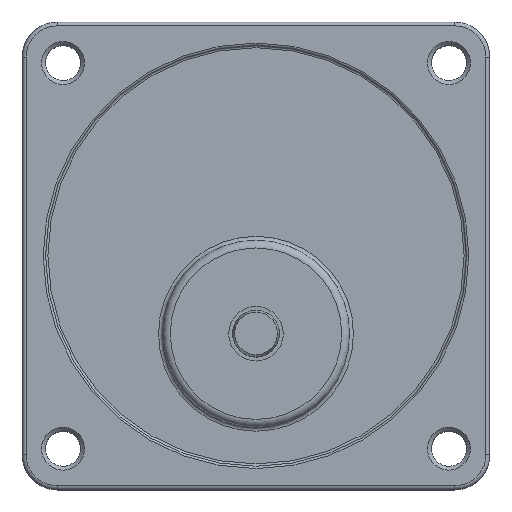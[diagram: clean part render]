
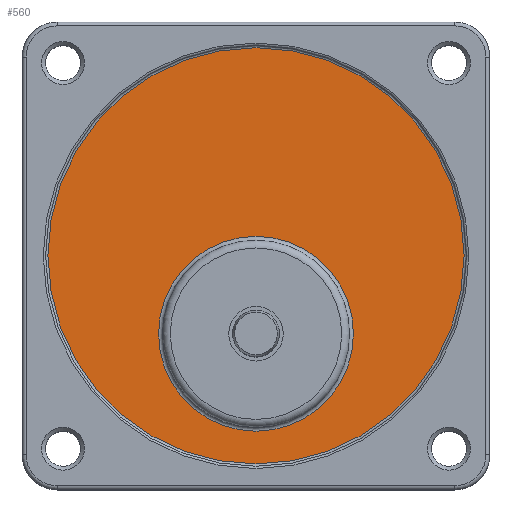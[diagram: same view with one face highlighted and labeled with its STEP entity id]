
A CAD part, top view. The second image highlights one B-rep face of the part: STEP entity #560.
In plain terms, the highlighted planar face has unit normal (0, 0, 1).
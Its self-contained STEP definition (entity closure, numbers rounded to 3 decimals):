
#509=CARTESIAN_POINT('',(42.5,20.0,25.2));
#510=VERTEX_POINT('',#509);
#511=CARTESIAN_POINT('',(30.,20.0,25.2));
#512=DIRECTION('',(0.0,0.0,1.0));
#513=DIRECTION('',(-1.0,0.0,0.0));
#514=AXIS2_PLACEMENT_3D('',#511,#512,#513);
#515=CIRCLE('',#514,12.5);
#516=EDGE_CURVE('',#510,#510,#515,.T.);
#541=CARTESIAN_POINT('',(30.,30.0,25.2));
#542=DIRECTION('',(0.0,0.0,-1.0));
#543=DIRECTION('',(-1.0,0.0,0.0));
#544=AXIS2_PLACEMENT_3D('',#541,#542,#543);
#545=PLANE('',#544);
#546=CARTESIAN_POINT('',(56.699,30.,25.2));
#547=VERTEX_POINT('',#546);
#548=CARTESIAN_POINT('',(30.,30.0,25.2));
#549=DIRECTION('',(0.0,0.0,-1.0));
#550=DIRECTION('',(-1.0,0.0,0.0));
#551=AXIS2_PLACEMENT_3D('',#548,#549,#550);
#552=CIRCLE('',#551,26.699);
#553=EDGE_CURVE('',#547,#547,#552,.T.);
#554=ORIENTED_EDGE('',*,*,#553,.F.);
#555=EDGE_LOOP('',(#554));
#556=FACE_OUTER_BOUND('',#555,.T.);
#557=ORIENTED_EDGE('',*,*,#516,.F.);
#558=EDGE_LOOP('',(#557));
#559=FACE_BOUND('',#558,.T.);
#560=ADVANCED_FACE('',(#556,#559),#545,.F.);
